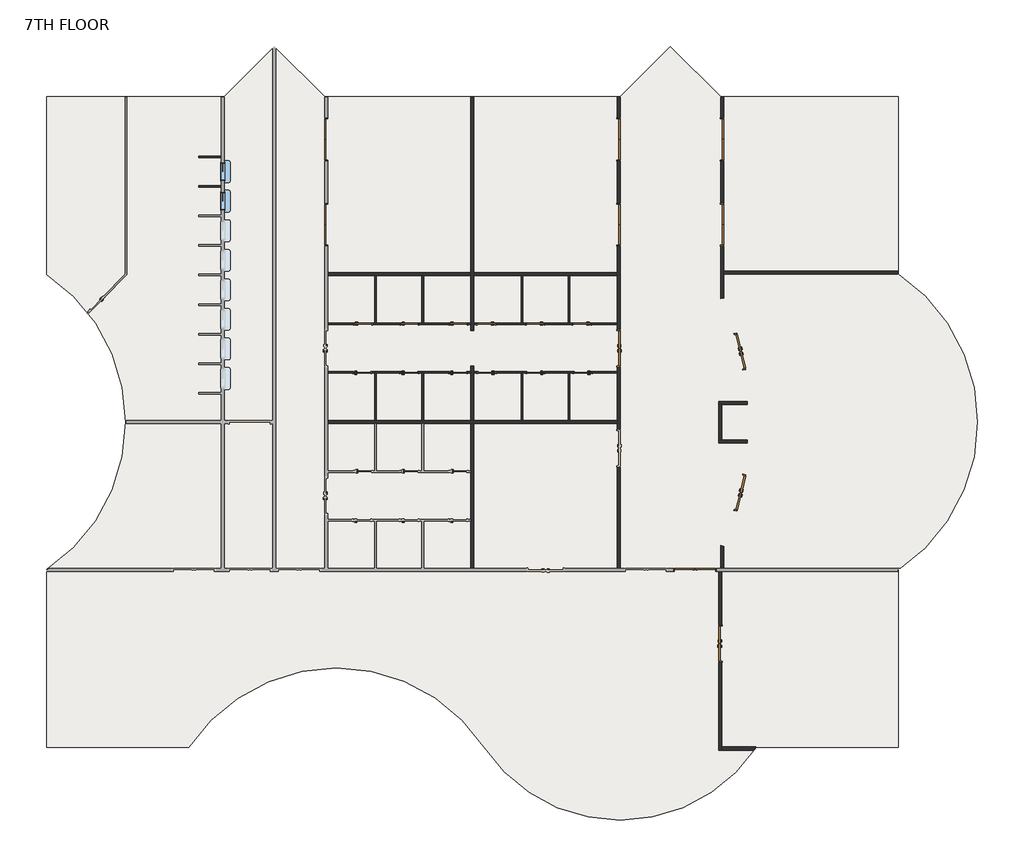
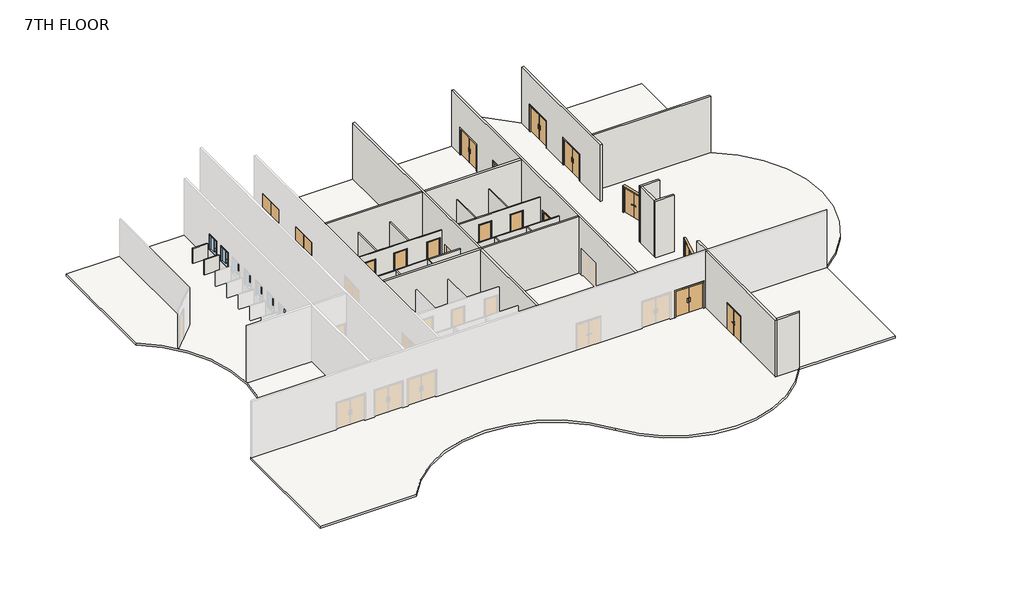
# One storey, part 2 of 2: 26 walls, 23 doors, 2 windows, 1 slab.
"""IFC4 building model written with IfcOpenShell, lengths in millimetres."""

from ifc_helpers import new_model, si_unit, point, frame, frame_2d, origin, place, context, project, spatial, polyline, circle_curve, trimmed, segment, composite_curve, outline, extrude, faceted_brep, transform, mapped, element, save
from ifc_brep_helpers import plane_surface, cylinder_surface, advanced_brep
from components import door_2f250f70, door_df8e76c5, door_0b13e4d9, door_b3a27a16, door_979b1b8c, door_f8b587be, pass_thru_4x3_19d81059

model = new_model("IFC4")

# Units and contexts
model_context = context("Model", 3, world=origin())
ifc_project = project(units=[si_unit("LENGTHUNIT", "METRE", prefix="MILLI")], contexts=[model_context])

# Site, building, storey
site = spatial("IfcSite", under=ifc_project)
building = spatial("IfcBuilding", under=site)
storey = spatial("IfcBuildingStorey", under=building, Name="7TH FLOOR", Elevation=32004.0)

# Doors
placement = place(None, origin())
door_shape = door_2f250f70(model_context)
element("IfcDoor", 1, ObjectType="Door-Passage-Double-Flush : 72\" x 82\"", at=placement, inside=storey, context=model_context, shape_type="MappedRepresentation", body=[
    mapped(door_shape, transform((35885.2621514, 20561.4429091, 32004.0), x_axis=(0.23975975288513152, -0.9708322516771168, 0.0), y_axis=(0.9708322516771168, 0.23975975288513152, 0.0), z_axis=(0.0, 0.0, 1.0))),
])
element("IfcDoor", 2, ObjectType="Door-Passage-Double-Flush : 72\" x 82\"", at=placement, inside=storey, context=model_context, shape_type="MappedRepresentation", body=[
    mapped(door_shape, transform((34887.5089577, 5494.3375, 32004.0), x_axis=(0.0, 1.0, 0.0), y_axis=(-1.0, 0.0, 0.0), z_axis=(0.0, 0.0, 1.0))),
])
door_2_shape = door_df8e76c5(model_context)
element("IfcDoor", 3, ObjectType="Door-Passage-Double-Flush : 72\" x 82\"", at=placement, inside=storey, context=model_context, shape_type="MappedRepresentation", body=[
    mapped(door_2_shape, transform((35886.7385063, 13277.3403388, 32004.0), x_axis=(0.23936619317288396, 0.9709293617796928, 0.0), y_axis=(-0.9709293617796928, 0.23936619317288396, 0.0), z_axis=(0.0, 0.0, 1.0))),
])
element("IfcDoor", 4, ObjectType="Door-Passage-Double-Flush : 72\" x 82\"", at=placement, inside=storey, context=model_context, shape_type="MappedRepresentation", body=[
    mapped(door_2_shape, transform((29628.0650257, 20729.575, 32004.0), x_axis=(0.0, 1.0, 0.0), y_axis=(-1.0, 0.0, 0.0), z_axis=(0.0, 0.0, 1.0))),
])
door_3_shape = door_0b13e4d9(model_context)
element("IfcDoor", 5, ObjectType="Door-Passage-Double-Flush-Dbl_Acting : 84\" x 84\"", at=placement, inside=storey, context=model_context, shape_type="MappedRepresentation", body=[
    mapped(door_3_shape, transform((33564.0300515, 9293.225, 32004.0), x_axis=(-1.0, 0.0, 0.0), y_axis=(0.0, -1.0, 0.0), z_axis=(0.0, 0.0, 1.0))),
])
element("IfcDoor", 6, ObjectType="Door-Passage-Double-Flush-Dbl_Acting : 84\" x 84\"", at=placement, inside=storey, context=model_context, shape_type="MappedRepresentation", body=[
    mapped(door_3_shape, transform((29628.0650257, 31499.175, 32004.0), x_axis=(0.0, 1.0, 0.0), y_axis=(-1.0, 0.0, 0.0), z_axis=(0.0, 0.0, 1.0))),
])
element("IfcDoor", 7, ObjectType="Door-Passage-Double-Flush-Dbl_Acting : 84\" x 84\"", at=placement, inside=storey, context=model_context, shape_type="MappedRepresentation", body=[
    mapped(door_3_shape, transform((29628.0650257, 27101.8, 32004.0), x_axis=(0.0, 1.0, 0.0), y_axis=(-1.0, 0.0, 0.0), z_axis=(0.0, 0.0, 1.0))),
])
door_4_shape = door_b3a27a16(model_context)
element("IfcDoor", 8, ObjectType="Door-Passage-Double-Flush-Dbl_Acting : 84\" x 84\"", at=placement, inside=storey, context=model_context, shape_type="MappedRepresentation", body=[
    mapped(door_4_shape, transform((14556.3400257, 31499.175, 32004.0), x_axis=(0.0, 1.0, 0.0), y_axis=(-1.0, 0.0, 0.0), z_axis=(0.0, 0.0, 1.0))),
])
element("IfcDoor", 9, ObjectType="Door-Passage-Double-Flush-Dbl_Acting : 84\" x 84\"", at=placement, inside=storey, context=model_context, shape_type="MappedRepresentation", body=[
    mapped(door_4_shape, transform((14556.3400257, 27101.8, 32004.0), x_axis=(0.0, 1.0, 0.0), y_axis=(-1.0, 0.0, 0.0), z_axis=(0.0, 0.0, 1.0))),
])
element("IfcDoor", 10, ObjectType="Door-Passage-Double-Flush-Dbl_Acting : 84\" x 84\"", at=placement, inside=storey, context=model_context, shape_type="MappedRepresentation", body=[
    mapped(door_4_shape, transform((34956.2675515, 31499.175, 32004.0), x_axis=(0.0, -1.0, 0.0), y_axis=(1.0, 0.0, 0.0), z_axis=(0.0, 0.0, 1.0))),
])
element("IfcDoor", 11, ObjectType="Door-Passage-Double-Flush-Dbl_Acting : 84\" x 84\"", at=placement, inside=storey, context=model_context, shape_type="MappedRepresentation", body=[
    mapped(door_4_shape, transform((34956.2675515, 27101.8, 32004.0), x_axis=(0.0, -1.0, 0.0), y_axis=(1.0, 0.0, 0.0), z_axis=(0.0, 0.0, 1.0))),
])
door_5_shape = door_979b1b8c(model_context)
element("IfcDoor", 12, ObjectType="Door-Passage-Single-Flush : 36\" x 96\"", at=placement, inside=storey, context=model_context, shape_type="MappedRepresentation", body=[
    mapped(door_5_shape, transform((16456.5775257, 21977.35, 32004.0), x_axis=(1.0, 0.0, 0.0), y_axis=(0.0, 1.0, 0.0), z_axis=(0.0, 0.0, 1.0))),
])
element("IfcDoor", 13, ObjectType="Door-Passage-Single-Flush : 36\" x 96\"", at=placement, inside=storey, context=model_context, shape_type="MappedRepresentation", body=[
    mapped(door_5_shape, transform((18855.2900257, 21977.35, 32004.0), x_axis=(1.0, 0.0, 0.0), y_axis=(0.0, 1.0, 0.0), z_axis=(0.0, 0.0, 1.0))),
])
element("IfcDoor", 14, ObjectType="Door-Passage-Single-Flush : 36\" x 96\"", at=placement, inside=storey, context=model_context, shape_type="MappedRepresentation", body=[
    mapped(door_5_shape, transform((21373.0650257, 21977.35, 32004.0), x_axis=(1.0, 0.0, 0.0), y_axis=(0.0, 1.0, 0.0), z_axis=(0.0, 0.0, 1.0))),
])
element("IfcDoor", 15, ObjectType="Door-Passage-Single-Flush : 36\" x 96\"", at=placement, inside=storey, context=model_context, shape_type="MappedRepresentation", body=[
    mapped(door_5_shape, transform((27778.6275257, 19481.8, 32004.0), x_axis=(-1.0, 0.0, 0.0), y_axis=(0.0, -1.0, 0.0), z_axis=(0.0, 0.0, 1.0))),
])
element("IfcDoor", 16, ObjectType="Door-Passage-Single-Flush : 36\" x 96\"", at=placement, inside=storey, context=model_context, shape_type="MappedRepresentation", body=[
    mapped(door_5_shape, transform((25348.1650257, 19481.8, 32004.0), x_axis=(-1.0, 0.0, 0.0), y_axis=(0.0, -1.0, 0.0), z_axis=(0.0, 0.0, 1.0))),
])
element("IfcDoor", 17, ObjectType="Door-Passage-Single-Flush : 36\" x 96\"", at=placement, inside=storey, context=model_context, shape_type="MappedRepresentation", body=[
    mapped(door_5_shape, transform((22830.3900257, 19481.8, 32004.0), x_axis=(-1.0, 0.0, 0.0), y_axis=(0.0, -1.0, 0.0), z_axis=(0.0, 0.0, 1.0))),
])
door_6_shape = door_f8b587be(model_context)
element("IfcDoor", 18, ObjectType="Door-Passage-Single-Flush : 36\" x 96\"", at=placement, inside=storey, context=model_context, shape_type="MappedRepresentation", body=[
    mapped(door_6_shape, transform((16405.7775257, 19481.8, 32004.0), x_axis=(1.0, 0.0, 0.0), y_axis=(0.0, 1.0, 0.0), z_axis=(0.0, 0.0, 1.0))),
])
element("IfcDoor", 19, ObjectType="Door-Passage-Single-Flush : 36\" x 96\"", at=placement, inside=storey, context=model_context, shape_type="MappedRepresentation", body=[
    mapped(door_6_shape, transform((18836.2400257, 19481.8, 32004.0), x_axis=(1.0, 0.0, 0.0), y_axis=(0.0, 1.0, 0.0), z_axis=(0.0, 0.0, 1.0))),
])
element("IfcDoor", 20, ObjectType="Door-Passage-Single-Flush : 36\" x 96\"", at=placement, inside=storey, context=model_context, shape_type="MappedRepresentation", body=[
    mapped(door_6_shape, transform((21354.0150257, 19481.8, 32004.0), x_axis=(1.0, 0.0, 0.0), y_axis=(0.0, 1.0, 0.0), z_axis=(0.0, 0.0, 1.0))),
])
element("IfcDoor", 21, ObjectType="Door-Passage-Single-Flush : 36\" x 96\"", at=placement, inside=storey, context=model_context, shape_type="MappedRepresentation", body=[
    mapped(door_6_shape, transform((27727.8275257, 21977.35, 32004.0), x_axis=(-1.0, 0.0, 0.0), y_axis=(0.0, -1.0, 0.0), z_axis=(0.0, 0.0, 1.0))),
])
element("IfcDoor", 22, ObjectType="Door-Passage-Single-Flush : 36\" x 96\"", at=placement, inside=storey, context=model_context, shape_type="MappedRepresentation", body=[
    mapped(door_6_shape, transform((25329.1150257, 21977.35, 32004.0), x_axis=(-1.0, 0.0, 0.0), y_axis=(0.0, -1.0, 0.0), z_axis=(0.0, 0.0, 1.0))),
])
element("IfcDoor", 23, ObjectType="Door-Passage-Single-Flush : 36\" x 96\"", at=placement, inside=storey, context=model_context, shape_type="MappedRepresentation", body=[
    mapped(door_6_shape, transform((22811.3400257, 21977.35, 32004.0), x_axis=(-1.0, 0.0, 0.0), y_axis=(0.0, -1.0, 0.0), z_axis=(0.0, 0.0, 1.0))),
])

# Slab
element("IfcSlab", 24, ObjectType="ARCHITECTURAL FINISH FLOOR", at=placement, inside=storey, context=model_context, shape_type="SweptSolid", body=[
    extrude(outline(composite_curve([segment(polyline([(9294.3144878, 33696.275), (11885.8887629, 36287.8492751), (14477.463038, 33696.275), (29706.9420135, 33696.275), (32298.5162886, 36287.8492751), (34890.0905637, 33696.275), (44041.5300515, 33696.275), (44041.5300515, 24546.3877275)]), True, "CONTINUOUS"), segment(trimmed(circle_curve(frame_2d((38974.293871, 16919.575)), 9156.7), [point((44041.5300515, 24546.3877275))], [point((44041.5300515, 9292.7622725))], False, "CARTESIAN"), True, "CONTINUOUS"), segment(polyline([(44041.5300515, 9292.7622725), (44041.5300515, 142.875), (36720.4425102, 142.875)]), True, "CONTINUOUS"), segment(trimmed(circle_curve(frame_2d((29712.2025257, 4799.7966199)), 8414.4130309), [point((36720.4425102, 142.875))], [point((22700.1916667, 148.5548109))], False, "CARTESIAN"), True, "CONTINUOUS"), segment(trimmed(circle_curve(frame_2d((15090.775, -4898.9611805)), 9131.3), [point((22700.1916667, 148.5548109))], [point((7477.593824, 142.875))], True, "CARTESIAN"), True, "CONTINUOUS"), segment(polyline([(7477.593824, 142.875), (142.875, 142.875), (142.875, 9306.393824)]), True, "CONTINUOUS"), segment(trimmed(circle_curve(frame_2d((-4898.9611805, 16919.575)), 9131.3), [point((142.875, 9306.393824))], [point((142.875, 24532.756176))], True, "CARTESIAN"), True, "CONTINUOUS"), segment(polyline([(142.875, 24532.756176), (142.875, 33696.275), (9294.3144878, 33696.275)]), True, "CONTINUOUS")], self_intersect=False)), frame((0.0, 0.0, 31851.6), z_axis=(0.0, 0.0, 1.0), x_axis=(1.0, 0.0, 0.0)), (0.0, 0.0, 1.0), 171.45),
])

# Walls
element("IfcWall", 25, ObjectType="SYR_INT_ONE_HOUR", at=placement, inside=storey, context=model_context, shape_type="SweptSolid", body=[
    extrude(outline(polyline([(17066.1775257, 22023.3875), (17066.1775257, 24461.7875), (17145.5525257, 24461.7875), (17145.5525257, 22023.3875), (17066.1775257, 22023.3875)])), frame((0.0, 0.0, 32004.0), z_axis=(0.0, 0.0, 1.0), x_axis=(1.0, 0.0, 0.0)), (0.0, 0.0, 1.0), 3048.0),
])
element("IfcWall", 26, ObjectType="SYR_INT_ONE_HOUR", at=placement, inside=storey, context=model_context, shape_type="SweptSolid", body=[
    extrude(outline(polyline([(19576.0150257, 19435.7625), (19576.0150257, 16997.3625), (19496.6400257, 16997.3625), (19496.6400257, 19435.7625), (19576.0150257, 19435.7625)])), frame((0.0, 0.0, 32004.0), z_axis=(0.0, 0.0, 1.0), x_axis=(1.0, 0.0, 0.0)), (0.0, 0.0, 1.0), 3048.0),
])
element("IfcWall", 27, ObjectType="SYR_INT_ONE_HOUR", at=placement, inside=storey, context=model_context, shape_type="Brep", body=[
    faceted_brep([(14627.7775257, 22023.3875, 35052.0), (17066.1775257, 22023.3875, 35052.0), (17145.5525257, 22023.3875, 35052.0), (19496.6400257, 22023.3875, 35052.0), (19576.0150257, 22023.3875, 35052.0), (22014.4150257, 22023.3875, 35052.0), (22014.4150257, 22023.3875, 32004.0), (21862.0150257, 22023.3875, 32004.0), (21862.0150257, 22023.3875, 34474.15), (20884.1150257, 22023.3875, 34474.15), (20884.1150257, 22023.3875, 32004.0), (19576.0150257, 22023.3875, 32004.0), (19496.6400257, 22023.3875, 32004.0), (19344.2400257, 22023.3875, 32004.0), (19344.2400257, 22023.3875, 34474.15), (18366.3400257, 22023.3875, 34474.15), (18366.3400257, 22023.3875, 32004.0), (17145.5525257, 22023.3875, 32004.0), (17066.1775257, 22023.3875, 32004.0), (16945.5275257, 22023.3875, 32004.0), (16945.5275257, 22023.3875, 34474.15), (15967.6275257, 22023.3875, 34474.15), (15967.6275257, 22023.3875, 32004.0), (14627.7775257, 22023.3875, 32004.0), (22014.4150257, 21944.0125, 35052.0), (14627.7775257, 21944.0125, 35052.0), (14627.7775257, 21944.0125, 32004.0), (15967.6275257, 21944.0125, 32004.0), (15967.6275257, 21944.0125, 34474.15), (16945.5275257, 21944.0125, 34474.15), (16945.5275257, 21944.0125, 32004.0), (18366.3400257, 21944.0125, 32004.0), (18366.3400257, 21944.0125, 34474.15), (19344.2400257, 21944.0125, 34474.15), (19344.2400257, 21944.0125, 32004.0), (20884.1150257, 21944.0125, 32004.0), (20884.1150257, 21944.0125, 34474.15), (21862.0150257, 21944.0125, 34474.15), (21862.0150257, 21944.0125, 32004.0), (22014.4150257, 21944.0125, 32004.0)], [[[0, 1, 2, 3, 4, 5, 6, 7, 8, 9, 10, 11, 12, 13, 14, 15, 16, 17, 18, 19, 20, 21, 22, 23]], [[24, 25, 26, 27, 28, 29, 30, 31, 32, 33, 34, 35, 36, 37, 38, 39]], [[23, 22, 27, 26]], [[30, 19, 18, 17, 16, 31]], [[34, 13, 12, 11, 10, 35]], [[6, 39, 38, 7]], [[5, 4, 3, 2, 1, 0, 25, 24]], [[29, 20, 19, 30]], [[20, 29, 28, 21]], [[21, 28, 27, 22]], [[14, 13, 34, 33]], [[15, 14, 33, 32]], [[16, 15, 32, 31]], [[37, 8, 7, 38]], [[8, 37, 36, 9]], [[9, 36, 35, 10]], [[0, 23, 26, 25]], [[6, 5, 24, 39]]]),
])
element("IfcWall", 28, ObjectType="SYR_INT_ONE_HOUR", at=placement, inside=storey, context=model_context, shape_type="Brep", body=[
    faceted_brep([(14627.7775257, 19515.1375, 35052.0), (22014.4150257, 19515.1375, 35052.0), (22014.4150257, 19515.1375, 32004.0), (21842.9650257, 19515.1375, 32004.0), (21842.9650257, 19515.1375, 34474.15), (20865.0650257, 19515.1375, 34474.15), (20865.0650257, 19515.1375, 32004.0), (19325.1900257, 19515.1375, 32004.0), (19325.1900257, 19515.1375, 34474.15), (18347.2900257, 19515.1375, 34474.15), (18347.2900257, 19515.1375, 32004.0), (16894.7275257, 19515.1375, 32004.0), (16894.7275257, 19515.1375, 34474.15), (15916.8275257, 19515.1375, 34474.15), (15916.8275257, 19515.1375, 32004.0), (14627.7775257, 19515.1375, 32004.0), (22014.4150257, 19435.7625, 35052.0), (19576.0150257, 19435.7625, 35052.0), (19496.6400257, 19435.7625, 35052.0), (17145.5525257, 19435.7625, 35052.0), (17066.1775257, 19435.7625, 35052.0), (14627.7775257, 19435.7625, 35052.0), (14627.7775257, 19435.7625, 32004.0), (15916.8275257, 19435.7625, 32004.0), (15916.8275257, 19435.7625, 34474.15), (16894.7275257, 19435.7625, 34474.15), (16894.7275257, 19435.7625, 32004.0), (17066.1775257, 19435.7625, 32004.0), (17145.5525257, 19435.7625, 32004.0), (18347.2900257, 19435.7625, 32004.0), (18347.2900257, 19435.7625, 34474.15), (19325.1900257, 19435.7625, 34474.15), (19325.1900257, 19435.7625, 32004.0), (19496.6400257, 19435.7625, 32004.0), (19576.0150257, 19435.7625, 32004.0), (20865.0650257, 19435.7625, 32004.0), (20865.0650257, 19435.7625, 34474.15), (21842.9650257, 19435.7625, 34474.15), (21842.9650257, 19435.7625, 32004.0), (22014.4150257, 19435.7625, 32004.0)], [[[0, 1, 2, 3, 4, 5, 6, 7, 8, 9, 10, 11, 12, 13, 14, 15]], [[16, 17, 18, 19, 20, 21, 22, 23, 24, 25, 26, 27, 28, 29, 30, 31, 32, 33, 34, 35, 36, 37, 38, 39]], [[15, 14, 23, 22]], [[26, 11, 10, 29, 28, 27]], [[32, 7, 6, 35, 34, 33]], [[2, 39, 38, 3]], [[1, 0, 21, 20, 19, 18, 17, 16]], [[25, 12, 11, 26]], [[12, 25, 24, 13]], [[13, 24, 23, 14]], [[31, 8, 7, 32]], [[8, 31, 30, 9]], [[9, 30, 29, 10]], [[37, 4, 3, 38]], [[4, 37, 36, 5]], [[5, 36, 35, 6]], [[0, 15, 22, 21]], [[2, 1, 16, 39]]]),
])
element("IfcWall", 29, ObjectType="SYR_INT_ONE_HOUR", at=placement, inside=storey, context=model_context, shape_type="SweptSolid", body=[
    extrude(outline(polyline([(17066.1775257, 16997.3625), (17066.1775257, 19435.7625), (17145.5525257, 19435.7625), (17145.5525257, 16997.3625), (17066.1775257, 16997.3625)])), frame((0.0, 0.0, 32004.0), z_axis=(0.0, 0.0, 1.0), x_axis=(1.0, 0.0, 0.0)), (0.0, 0.0, 1.0), 3048.0),
])
element("IfcWall", 30, ObjectType="SYR_INT_ONE_HOUR", at=placement, inside=storey, context=model_context, shape_type="SweptSolid", body=[
    extrude(outline(polyline([(19576.0150257, 24461.7875), (19576.0150257, 22023.3875), (19496.6400257, 22023.3875), (19496.6400257, 24461.7875), (19576.0150257, 24461.7875)])), frame((0.0, 0.0, 32004.0), z_axis=(0.0, 0.0, 1.0), x_axis=(1.0, 0.0, 0.0)), (0.0, 0.0, 1.0), 3048.0),
])
element("IfcWall", 31, ObjectType="SYR_INT_ONE_HOUR", at=placement, inside=storey, context=model_context, shape_type="SweptSolid", body=[
    extrude(outline(polyline([(7979.2710938, 29111.575), (9144.0, 29111.575), (9144.0, 29032.2), (7979.2710938, 29032.2), (7979.2710938, 29111.575)])), frame((0.0, 0.0, 32004.0), z_axis=(0.0, 0.0, 1.0), x_axis=(1.0, 0.0, 0.0)), (0.0, 0.0, 1.0), 1219.2),
])
element("IfcWall", 32, ObjectType="SYR_INT_ONE_HOUR", at=placement, inside=storey, context=model_context, shape_type="SweptSolid", body=[
    extrude(outline(polyline([(7979.2710938, 30635.575), (9144.0, 30635.575), (9144.0, 30556.2), (7979.2710938, 30556.2), (7979.2710938, 30635.575)])), frame((0.0, 0.0, 32004.0), z_axis=(0.0, 0.0, 1.0), x_axis=(1.0, 0.0, 0.0)), (0.0, 0.0, 1.0), 1219.2),
])
element("IfcWall", 33, ObjectType="SYR_INT_ONE_HOUR", at=placement, inside=storey, context=model_context, shape_type="SweptSolid", body=[
    extrude(outline(polyline([(27038.8525257, 22023.3875), (27038.8525257, 24461.7875), (27118.2275257, 24461.7875), (27118.2275257, 22023.3875), (27038.8525257, 22023.3875)])), frame((0.0, 0.0, 32004.0), z_axis=(0.0, 0.0, 1.0), x_axis=(1.0, 0.0, 0.0)), (0.0, 0.0, 1.0), 3048.0),
])
element("IfcWall", 34, ObjectType="SYR_INT_ONE_HOUR", at=placement, inside=storey, context=model_context, shape_type="SweptSolid", body=[
    extrude(outline(polyline([(24687.7650257, 19435.7625), (24687.7650257, 16997.3625), (24608.3900257, 16997.3625), (24608.3900257, 19435.7625), (24687.7650257, 19435.7625)])), frame((0.0, 0.0, 32004.0), z_axis=(0.0, 0.0, 1.0), x_axis=(1.0, 0.0, 0.0)), (0.0, 0.0, 1.0), 3048.0),
])
element("IfcWall", 35, ObjectType="SYR_INT_ONE_HOUR", at=placement, inside=storey, context=model_context, shape_type="Brep", body=[
    faceted_brep([(29556.6275257, 21944.0125, 35052.0), (22169.9900257, 21944.0125, 35052.0), (22169.9900257, 21944.0125, 32004.0), (22322.3900257, 21944.0125, 32004.0), (22322.3900257, 21944.0125, 34474.15), (23300.2900257, 21944.0125, 34474.15), (23300.2900257, 21944.0125, 32004.0), (24840.1650257, 21944.0125, 32004.0), (24840.1650257, 21944.0125, 34474.15), (25818.0650257, 21944.0125, 34474.15), (25818.0650257, 21944.0125, 32004.0), (27238.8775257, 21944.0125, 32004.0), (27238.8775257, 21944.0125, 34474.15), (28216.7775257, 21944.0125, 34474.15), (28216.7775257, 21944.0125, 32004.0), (29556.6275257, 21944.0125, 32004.0), (22169.9900257, 22023.3875, 35052.0), (24608.3900257, 22023.3875, 35052.0), (24687.7650257, 22023.3875, 35052.0), (27038.8525257, 22023.3875, 35052.0), (27118.2275257, 22023.3875, 35052.0), (29556.6275257, 22023.3875, 35052.0), (29556.6275257, 22023.3875, 32004.0), (28216.7775257, 22023.3875, 32004.0), (28216.7775257, 22023.3875, 34474.15), (27238.8775257, 22023.3875, 34474.15), (27238.8775257, 22023.3875, 32004.0), (27118.2275257, 22023.3875, 32004.0), (27038.8525257, 22023.3875, 32004.0), (25818.0650257, 22023.3875, 32004.0), (25818.0650257, 22023.3875, 34474.15), (24840.1650257, 22023.3875, 34474.15), (24840.1650257, 22023.3875, 32004.0), (24687.7650257, 22023.3875, 32004.0), (24608.3900257, 22023.3875, 32004.0), (23300.2900257, 22023.3875, 32004.0), (23300.2900257, 22023.3875, 34474.15), (22322.3900257, 22023.3875, 34474.15), (22322.3900257, 22023.3875, 32004.0), (22169.9900257, 22023.3875, 32004.0)], [[[0, 1, 2, 3, 4, 5, 6, 7, 8, 9, 10, 11, 12, 13, 14, 15]], [[16, 17, 18, 19, 20, 21, 22, 23, 24, 25, 26, 27, 28, 29, 30, 31, 32, 33, 34, 35, 36, 37, 38, 39]], [[15, 14, 23, 22]], [[26, 11, 10, 29, 28, 27]], [[32, 7, 6, 35, 34, 33]], [[2, 39, 38, 3]], [[1, 0, 21, 20, 19, 18, 17, 16]], [[25, 12, 11, 26]], [[12, 25, 24, 13]], [[13, 24, 23, 14]], [[8, 7, 32, 31]], [[9, 8, 31, 30]], [[10, 9, 30, 29]], [[37, 4, 3, 38]], [[4, 37, 36, 5]], [[5, 36, 35, 6]], [[0, 15, 22, 21]], [[2, 1, 16, 39]]]),
])
element("IfcWall", 36, ObjectType="SYR_INT_ONE_HOUR", at=placement, inside=storey, context=model_context, shape_type="Brep", body=[
    faceted_brep([(29556.6275257, 19435.7625, 35052.0), (27118.2275257, 19435.7625, 35052.0), (27038.8525257, 19435.7625, 35052.0), (24687.7650257, 19435.7625, 35052.0), (24608.3900257, 19435.7625, 35052.0), (22169.9900257, 19435.7625, 35052.0), (22169.9900257, 19435.7625, 32004.0), (22341.4400257, 19435.7625, 32004.0), (22341.4400257, 19435.7625, 34474.15), (23319.3400257, 19435.7625, 34474.15), (23319.3400257, 19435.7625, 32004.0), (24608.3900257, 19435.7625, 32004.0), (24687.7650257, 19435.7625, 32004.0), (24859.2150257, 19435.7625, 32004.0), (24859.2150257, 19435.7625, 34474.15), (25837.1150257, 19435.7625, 34474.15), (25837.1150257, 19435.7625, 32004.0), (27038.8525257, 19435.7625, 32004.0), (27118.2275257, 19435.7625, 32004.0), (27289.6775257, 19435.7625, 32004.0), (27289.6775257, 19435.7625, 34474.15), (28267.5775257, 19435.7625, 34474.15), (28267.5775257, 19435.7625, 32004.0), (29556.6275257, 19435.7625, 32004.0), (22169.9900257, 19515.1375, 35052.0), (29556.6275257, 19515.1375, 35052.0), (29556.6275257, 19515.1375, 32004.0), (28267.5775257, 19515.1375, 32004.0), (28267.5775257, 19515.1375, 34474.15), (27289.6775257, 19515.1375, 34474.15), (27289.6775257, 19515.1375, 32004.0), (25837.1150257, 19515.1375, 32004.0), (25837.1150257, 19515.1375, 34474.15), (24859.2150257, 19515.1375, 34474.15), (24859.2150257, 19515.1375, 32004.0), (23319.3400257, 19515.1375, 32004.0), (23319.3400257, 19515.1375, 34474.15), (22341.4400257, 19515.1375, 34474.15), (22341.4400257, 19515.1375, 32004.0), (22169.9900257, 19515.1375, 32004.0)], [[[0, 1, 2, 3, 4, 5, 6, 7, 8, 9, 10, 11, 12, 13, 14, 15, 16, 17, 18, 19, 20, 21, 22, 23]], [[24, 25, 26, 27, 28, 29, 30, 31, 32, 33, 34, 35, 36, 37, 38, 39]], [[23, 22, 27, 26]], [[30, 19, 18, 17, 16, 31]], [[34, 13, 12, 11, 10, 35]], [[6, 39, 38, 7]], [[5, 4, 3, 2, 1, 0, 25, 24]], [[29, 20, 19, 30]], [[20, 29, 28, 21]], [[21, 28, 27, 22]], [[33, 14, 13, 34]], [[14, 33, 32, 15]], [[15, 32, 31, 16]], [[37, 8, 7, 38]], [[8, 37, 36, 9]], [[9, 36, 35, 10]], [[0, 23, 26, 25]], [[6, 5, 24, 39]]]),
])
element("IfcWall", 37, ObjectType="SYR_INT_ONE_HOUR", at=placement, inside=storey, context=model_context, shape_type="SweptSolid", body=[
    extrude(outline(polyline([(27038.8525257, 16997.3625), (27038.8525257, 19435.7625), (27118.2275257, 19435.7625), (27118.2275257, 16997.3625), (27038.8525257, 16997.3625)])), frame((0.0, 0.0, 32004.0), z_axis=(0.0, 0.0, 1.0), x_axis=(1.0, 0.0, 0.0)), (0.0, 0.0, 1.0), 3048.0),
])
element("IfcWall", 38, ObjectType="SYR_INT_ONE_HOUR", at=placement, inside=storey, context=model_context, shape_type="SweptSolid", body=[
    extrude(outline(polyline([(24687.7650257, 24461.7875), (24687.7650257, 22023.3875), (24608.3900257, 22023.3875), (24608.3900257, 24461.7875), (24687.7650257, 24461.7875)])), frame((0.0, 0.0, 32004.0), z_axis=(0.0, 0.0, 1.0), x_axis=(1.0, 0.0, 0.0)), (0.0, 0.0, 1.0), 3048.0),
])
element("IfcWall", 39, ObjectType="SYR_INT_TWO_HOUR", at=placement, inside=storey, context=model_context, shape_type="Brep", body=[
    faceted_brep([(34803.3714577, 0.0, 36576.0), (34803.3714577, 9221.7875, 36576.0), (34803.3714577, 9221.7875, 32004.0), (34803.3714577, 6459.5375, 32004.0), (34803.3714577, 6459.5375, 34188.4), (34803.3714577, 4529.1375, 34188.4), (34803.3714577, 4529.1375, 32004.0), (34803.3714577, 0.0, 32004.0), (34958.9464577, 9221.7875, 36576.0), (34958.9464577, 155.575, 36576.0), (34958.9464577, 0.0, 36576.0), (34958.9464577, 0.0, 32004.0), (34958.9464577, 155.575, 32004.0), (34958.9464577, 4529.1375, 32004.0), (34958.9464577, 4529.1375, 34188.4), (34958.9464577, 6459.5375, 34188.4), (34958.9464577, 6459.5375, 32004.0), (34958.9464577, 9221.7875, 32004.0)], [[[0, 1, 2, 3, 4, 5, 6, 7]], [[8, 9, 10, 11, 12, 13, 14, 15, 16, 17]], [[2, 17, 16, 3]], [[11, 7, 6, 13, 12]], [[1, 0, 10, 9, 8]], [[2, 1, 8, 17]], [[0, 7, 11, 10]], [[15, 4, 3, 16]], [[4, 15, 14, 5]], [[5, 14, 13, 6]]]),
])
element("IfcWall", 40, ObjectType="SYR_INT_TWO_HOUR", at=placement, inside=storey, context=model_context, shape_type="SweptSolid", body=[
    extrude(outline(composite_curve([segment(polyline([(36607.9065696, 0.0), (34958.9464577, 0.0), (34958.9464577, 155.575), (36713.6300515, 155.575)]), True, "CONTINUOUS"), segment(trimmed(circle_curve(frame_2d((29712.2025257, 4799.7966199)), 8401.7130309), [point((36713.6300515, 155.575))], [point((36607.9065696, 0.0))], False, "CARTESIAN"), True, "CONTINUOUS")], self_intersect=False)), frame((0.0, 0.0, 32004.0), z_axis=(0.0, 0.0, 1.0), x_axis=(1.0, 0.0, 0.0)), (0.0, 0.0, 1.0), 4572.0),
])
element("IfcWall", 41, ObjectType="SYR_INT_TWO_HOUR", at=placement, inside=storey, context=model_context, shape_type="Brep", body=[
    faceted_brep([(29556.6275257, 9377.3625, 36576.0), (29556.6275257, 16841.7875, 36576.0), (29556.6275257, 16997.3625, 36576.0), (29556.6275257, 24461.7875, 36576.0), (29556.6275257, 24617.3625, 36576.0), (29556.6275257, 33683.575, 36576.0), (29556.6275257, 33683.575, 32004.0), (29556.6275257, 32616.775, 32004.0), (29556.6275257, 32616.775, 34239.2), (29556.6275257, 30381.575, 34239.2), (29556.6275257, 30381.575, 32004.0), (29556.6275257, 28219.4, 32004.0), (29556.6275257, 28219.4, 34239.2), (29556.6275257, 25984.2, 34239.2), (29556.6275257, 25984.2, 32004.0), (29556.6275257, 24617.3625, 32004.0), (29556.6275257, 24461.7875, 32004.0), (29556.6275257, 22023.3875, 32004.0), (29556.6275257, 21944.0125, 32004.0), (29556.6275257, 21694.775, 32004.0), (29556.6275257, 21694.775, 34188.4), (29556.6275257, 19764.375, 34188.4), (29556.6275257, 19764.375, 32004.0), (29556.6275257, 19515.1375, 32004.0), (29556.6275257, 19435.7625, 32004.0), (29556.6275257, 16997.3625, 32004.0), (29556.6275257, 16841.7875, 32004.0), (29556.6275257, 16536.9875, 32004.0), (29556.6275257, 16536.9875, 34188.4), (29556.6275257, 14606.5875, 34188.4), (29556.6275257, 14606.5875, 32004.0), (29556.6275257, 9377.3625, 32004.0), (29712.2025257, 33683.575, 36576.0), (29712.2025257, 9377.3625, 36576.0), (29712.2025257, 9377.3625, 32004.0), (29712.2025257, 14606.5875, 32004.0), (29712.2025257, 14606.5875, 34188.4), (29712.2025257, 16536.9875, 34188.4), (29712.2025257, 16536.9875, 32004.0), (29712.2025257, 19764.375, 32004.0), (29712.2025257, 19764.375, 34188.4), (29712.2025257, 21694.775, 34188.4), (29712.2025257, 21694.775, 32004.0), (29712.2025257, 25984.2, 32004.0), (29712.2025257, 25984.2, 34239.2), (29712.2025257, 28219.4, 34239.2), (29712.2025257, 28219.4, 32004.0), (29712.2025257, 30381.575, 32004.0), (29712.2025257, 30381.575, 34239.2), (29712.2025257, 32616.775, 34239.2), (29712.2025257, 32616.775, 32004.0), (29712.2025257, 33683.575, 32004.0)], [[[0, 1, 2, 3, 4, 5, 6, 7, 8, 9, 10, 11, 12, 13, 14, 15, 16, 17, 18, 19, 20, 21, 22, 23, 24, 25, 26, 27, 28, 29, 30, 31]], [[32, 33, 34, 35, 36, 37, 38, 39, 40, 41, 42, 43, 44, 45, 46, 47, 48, 49, 50, 51]], [[34, 31, 30, 35]], [[42, 19, 18, 17, 16, 15, 14, 43]], [[22, 39, 38, 27, 26, 25, 24, 23]], [[46, 11, 10, 47]], [[7, 6, 51, 50]], [[5, 4, 3, 2, 1, 0, 33, 32]], [[0, 31, 34, 33]], [[41, 20, 19, 42]], [[20, 41, 40, 21]], [[21, 40, 39, 22]], [[45, 12, 11, 46]], [[12, 45, 44, 13]], [[13, 44, 43, 14]], [[49, 8, 7, 50]], [[8, 49, 48, 9]], [[9, 48, 47, 10]], [[29, 36, 35, 30]], [[36, 29, 28, 37]], [[37, 28, 27, 38]], [[6, 5, 32, 51]]]),
])
element("IfcWall", 42, ObjectType="SYR_INT_TWO_HOUR", at=placement, inside=storey, context=model_context, shape_type="Brep", body=[
    faceted_brep([(34884.8300515, 23286.7810764, 36576.0), (34884.8300515, 33683.575, 36576.0), (34884.8300515, 33683.575, 32004.0), (34884.8300515, 32616.775, 32004.0), (34884.8300515, 32616.775, 34239.2), (34884.8300515, 30381.575, 34239.2), (34884.8300515, 30381.575, 32004.0), (34884.8300515, 28219.4, 32004.0), (34884.8300515, 28219.4, 34239.2), (34884.8300515, 25984.2, 34239.2), (34884.8300515, 25984.2, 32004.0), (34884.8300515, 23286.7810764, 32004.0), (35040.4050515, 33683.575, 36576.0), (35040.4050515, 24695.15, 36576.0), (35040.4050515, 24539.575, 36576.0), (35040.4050515, 23320.9573614, 36576.0), (35040.4050515, 23320.9573614, 32004.0), (35040.4050515, 24539.575, 32004.0), (35040.4050515, 24695.15, 32004.0), (35040.4050515, 25984.2, 32004.0), (35040.4050515, 25984.2, 34239.2), (35040.4050515, 28219.4, 34239.2), (35040.4050515, 28219.4, 32004.0), (35040.4050515, 30381.575, 32004.0), (35040.4050515, 30381.575, 34239.2), (35040.4050515, 32616.775, 34239.2), (35040.4050515, 32616.775, 32004.0), (35040.4050515, 33683.575, 32004.0)], [[[0, 1, 2, 3, 4, 5, 6, 7, 8, 9, 10, 11]], [[12, 13, 14, 15, 16, 17, 18, 19, 20, 21, 22, 23, 24, 25, 26, 27]], [[16, 11, 10, 19, 18, 17]], [[3, 2, 27, 26]], [[6, 23, 22, 7]], [[1, 0, 15, 14, 13, 12]], [[0, 11, 16, 15]], [[5, 24, 23, 6]], [[24, 5, 4, 25]], [[25, 4, 3, 26]], [[9, 20, 19, 10]], [[20, 9, 8, 21]], [[21, 8, 7, 22]], [[2, 1, 12, 27]]]),
])
element("IfcWall", 43, ObjectType="SYR_INT_TWO_HOUR", at=placement, inside=storey, context=model_context, shape_type="Brep", body=[
    faceted_brep([(14627.7775257, 16841.7875, 32004.0), (17066.1775257, 16841.7875, 32004.0), (17145.5525257, 16841.7875, 32004.0), (19496.6400257, 16841.7875, 32004.0), (19576.0150257, 16841.7875, 32004.0), (22014.4150257, 16841.7875, 32004.0), (22169.9900257, 16841.7875, 32004.0), (29556.6275257, 16841.7875, 32004.0), (29556.6275257, 16841.7875, 36576.0), (22169.9900257, 16841.7875, 36576.0), (22014.4150257, 16841.7875, 36576.0), (14627.7775257, 16841.7875, 36576.0), (14627.7775257, 16997.3625, 32004.0), (14627.7775257, 16997.3625, 36576.0), (22014.4150257, 16997.3625, 36576.0), (22169.9900257, 16997.3625, 36576.0), (29556.6275257, 16997.3625, 36576.0), (29556.6275257, 16997.3625, 32004.0), (27118.2275257, 16997.3625, 32004.0), (27038.8525257, 16997.3625, 32004.0), (24687.7650257, 16997.3625, 32004.0), (24608.3900257, 16997.3625, 32004.0), (22169.9900257, 16997.3625, 32004.0), (22014.4150257, 16997.3625, 32004.0), (19576.0150257, 16997.3625, 32004.0), (19496.6400257, 16997.3625, 32004.0), (17145.5525257, 16997.3625, 32004.0), (17066.1775257, 16997.3625, 32004.0)], [[[0, 1, 2, 3, 4, 5, 6, 7, 8, 9, 10, 11]], [[12, 13, 14, 15, 16, 17, 18, 19, 20, 21, 22, 23, 24, 25, 26, 27]], [[7, 6, 5, 4, 3, 2, 1, 0, 12, 27, 26, 25, 24, 23, 22, 21, 20, 19, 18, 17]], [[11, 10, 9, 8, 16, 15, 14, 13]], [[0, 11, 13, 12]], [[8, 7, 17, 16]]]),
])
element("IfcWall", 44, ObjectType="SYR_INT_TWO_HOUR", at=placement, inside=storey, context=model_context, shape_type="Brep", body=[
    faceted_brep([(22169.9900257, 9377.3625, 36576.0), (22169.9900257, 9377.3625, 32004.0), (22169.9900257, 16841.7875, 32004.0), (22169.9900257, 16841.7875, 36576.0), (22014.4150257, 9377.3625, 32004.0), (22014.4150257, 9377.3625, 36576.0), (22014.4150257, 16841.7875, 36576.0), (22014.4150257, 16841.7875, 32004.0), (22014.4150257, 14403.3875, 32004.0), (22014.4150257, 14324.0125, 32004.0), (22014.4150257, 11895.1375, 32004.0), (22014.4150257, 11815.7625, 32004.0)], [[[0, 1, 2, 3]], [[4, 5, 6, 7, 8, 9, 10, 11]], [[1, 4, 11, 10, 9, 8, 7, 2]], [[5, 0, 3, 6]], [[1, 0, 5, 4]], [[3, 2, 7, 6]]]),
    faceted_brep([(22169.9900257, 19815.175, 32004.0), (22169.9900257, 19815.175, 34137.6), (22169.9900257, 21643.975, 34137.6), (22169.9900257, 21643.975, 32004.0), (22169.9900257, 21944.0125, 32004.0), (22169.9900257, 22023.3875, 32004.0), (22169.9900257, 24461.7875, 32004.0), (22169.9900257, 24617.3625, 32004.0), (22169.9900257, 33683.575, 32004.0), (22169.9900257, 33683.575, 36576.0), (22169.9900257, 24617.3625, 36576.0), (22169.9900257, 24461.7875, 36576.0), (22169.9900257, 16997.3625, 36576.0), (22169.9900257, 16997.3625, 32004.0), (22169.9900257, 19435.7625, 32004.0), (22169.9900257, 19515.1375, 32004.0), (22014.4150257, 19815.175, 34137.6), (22014.4150257, 19815.175, 32004.0), (22014.4150257, 19515.1375, 32004.0), (22014.4150257, 19435.7625, 32004.0), (22014.4150257, 16997.3625, 32004.0), (22014.4150257, 16997.3625, 36576.0), (22014.4150257, 24461.7875, 36576.0), (22014.4150257, 24617.3625, 36576.0), (22014.4150257, 33683.575, 36576.0), (22014.4150257, 33683.575, 32004.0), (22014.4150257, 24617.3625, 32004.0), (22014.4150257, 24461.7875, 32004.0), (22014.4150257, 22023.3875, 32004.0), (22014.4150257, 21944.0125, 32004.0), (22014.4150257, 21643.975, 32004.0), (22014.4150257, 21643.975, 34137.6)], [[[0, 1, 2, 3, 4, 5, 6, 7, 8, 9, 10, 11, 12, 13, 14, 15]], [[16, 17, 18, 19, 20, 21, 22, 23, 24, 25, 26, 27, 28, 29, 30, 31]], [[17, 0, 15, 14, 13, 20, 19, 18]], [[3, 30, 29, 28, 27, 26, 25, 8, 7, 6, 5, 4]], [[9, 24, 23, 22, 21, 12, 11, 10]], [[13, 12, 21, 20]], [[17, 16, 1, 0]], [[31, 30, 3, 2]], [[16, 31, 2, 1]], [[9, 8, 25, 24]]]),
])
element("IfcWall", 45, ObjectType="SYR_INT_TWO_HOUR", at=placement, inside=storey, context=model_context, shape_type="Brep", body=[
    faceted_brep([(14627.7775257, 24461.7875, 36576.0), (14627.7775257, 24461.7875, 32004.0), (17066.1775257, 24461.7875, 32004.0), (17145.5525257, 24461.7875, 32004.0), (19496.6400257, 24461.7875, 32004.0), (19576.0150257, 24461.7875, 32004.0), (22014.4150257, 24461.7875, 32004.0), (22014.4150257, 24461.7875, 36576.0), (14627.7775257, 24617.3625, 32004.0), (14627.7775257, 24617.3625, 36576.0), (22014.4150257, 24617.3625, 36576.0), (22014.4150257, 24617.3625, 32004.0)], [[[0, 1, 2, 3, 4, 5, 6, 7]], [[8, 9, 10, 11]], [[1, 8, 11, 6, 5, 4, 3, 2]], [[9, 0, 7, 10]], [[1, 0, 9, 8]], [[7, 6, 11, 10]]]),
    faceted_brep([(29556.6275257, 24461.7875, 32004.0), (29556.6275257, 24461.7875, 36576.0), (22169.9900257, 24461.7875, 36576.0), (22169.9900257, 24461.7875, 32004.0), (24608.3900257, 24461.7875, 32004.0), (24687.7650257, 24461.7875, 32004.0), (27038.8525257, 24461.7875, 32004.0), (27118.2275257, 24461.7875, 32004.0), (29556.6275257, 24617.3625, 36576.0), (29556.6275257, 24617.3625, 32004.0), (22169.9900257, 24617.3625, 32004.0), (22169.9900257, 24617.3625, 36576.0)], [[[0, 1, 2, 3, 4, 5, 6, 7]], [[8, 9, 10, 11]], [[9, 0, 7, 6, 5, 4, 3, 10]], [[1, 8, 11, 2]], [[1, 0, 9, 8]], [[3, 2, 11, 10]]]),
])
element("IfcWall", 46, ObjectType="SYR_INT_TWO_HOUR", at=placement, inside=storey, context=model_context, shape_type="SweptSolid", body=[
    extrude(outline(polyline([(35040.4050515, 24695.15), (44028.8300515, 24695.15), (44028.8300515, 24539.575), (35040.4050515, 24539.575), (35040.4050515, 24695.15)])), frame((0.0, 0.0, 32004.0), z_axis=(0.0, 0.0, 1.0), x_axis=(1.0, 0.0, 0.0)), (0.0, 0.0, 1.0), 4572.0),
])
element("IfcWall", 47, ObjectType="SYR_INT_TWO_HOUR", at=placement, inside=storey, context=model_context, shape_type="SweptSolid", body=[
    extrude(outline(polyline([(34884.8300515, 9377.3625), (34884.8300515, 10546.0189236), (35040.4050515, 10511.8426386), (35040.4050515, 9377.3625), (34884.8300515, 9377.3625)])), frame((0.0, 0.0, 32004.0), z_axis=(0.0, 0.0, 1.0), x_axis=(1.0, 0.0, 0.0)), (0.0, 0.0, 1.0), 4572.0),
])
element("IfcWall", 48, ObjectType="SYR_INT_TWO_HOUR", at=placement, inside=storey, context=model_context, shape_type="AdvancedBrep", body=[
    advanced_brep(
    [(36260.4137436, 16002.0, 32004.0), (34939.3011452, 16002.0, 32004.0), (34783.7261452, 16002.0, 32004.0), (34783.7261452, 16002.0, 36576.0), (34939.3011452, 16002.0, 36576.0), (36260.4137436, 16002.0, 36576.0), (36250.2111967, 15846.425, 32004.0), (36250.2111967, 15846.425, 36576.0), (34783.7261452, 15846.425, 36576.0), (34783.7261452, 15846.425, 32004.0)],
    [
        (0, 1),
        (1, 2),
        (2, 3),
        (3, 4),
        (4, 5),
        (5, 0),
        (6, 7),
        (7, 8),
        (8, 9),
        (9, 6),
        (0, 6, circle_curve(frame((21125.7990959, 16916.4, 32004.0), z_axis=(0.0, 0.0, -1.0), x_axis=(1.0, 0.0, 0.0)), 15162.2125)),
        (9, 2),
        (3, 8),
        (7, 5, circle_curve(frame((21125.7990959, 16916.4, 36576.0), z_axis=(0.0, 0.0, 1.0), x_axis=(1.0, 0.0, 0.0)), 15162.2125)),
    ],
    [
        plane_surface(frame((36365.7990959, 16002.0, 32004.0), z_axis=(0.0, 1.0, 0.0), x_axis=(-1.0, 0.0, 0.0))),
        plane_surface(frame((36365.7990959, 15846.425, 32004.0), z_axis=(0.0, -1.0, 0.0), x_axis=(1.0, 0.0, 0.0))),
        plane_surface(frame((36333.467029, 16002.0, 32004.0), z_axis=(0.0, 0.0, -1.0), x_axis=(0.0, -1.0, 0.0))),
        plane_surface(frame((34861.5136452, 16002.0, 36576.0), z_axis=(0.0, 0.0, 1.0), x_axis=(0.0, -1.0, 0.0))),
        cylinder_surface(frame((21125.7990959, 16916.4, 32004.0), z_axis=(0.0, 0.0, -1.0), x_axis=(1.0, 0.0, 0.0)), 15162.2125),
        plane_surface(frame((34783.7261452, 17087.0102762, 32004.0), z_axis=(-1.0, 0.0, 0.0), x_axis=(0.0, -1.0, 0.0))),
    ],
    [
        (0, [[1, 2, 3, 4, 5, 6]]),
        (1, [[7, 8, 9, 10]]),
        (2, [[-2, -1, 11, -10, 12]]),
        (3, [[-5, -4, 13, -8, 14]]),
        (4, [[-6, -14, -7, -11]]),
        (5, [[-3, -12, -9, -13]]),
    ],
),
])
element("IfcWall", 49, ObjectType="SYR_INT_TWO_HOUR", at=placement, inside=storey, context=model_context, shape_type="AdvancedBrep", body=[
    advanced_brep(
    [(34783.7261452, 17830.8, 32004.0), (34939.3011452, 17830.8, 32004.0), (36260.4137436, 17830.8, 32004.0), (36260.4137436, 17830.8, 36576.0), (34939.3011452, 17830.8, 36576.0), (34783.7261452, 17830.8, 36576.0), (34783.7261452, 17986.375, 32004.0), (34783.7261452, 17986.375, 36576.0), (36250.2111967, 17986.375, 36576.0), (36250.2111967, 17986.375, 32004.0)],
    [
        (0, 1),
        (1, 2),
        (2, 3),
        (3, 4),
        (4, 5),
        (5, 0),
        (6, 7),
        (7, 8),
        (8, 9),
        (9, 6),
        (0, 6),
        (9, 2, circle_curve(frame((21125.7990959, 16916.4, 32004.0), z_axis=(0.0, 0.0, -1.0), x_axis=(1.0, 0.0, 0.0)), 15162.2125)),
        (3, 8, circle_curve(frame((21125.7990959, 16916.4, 36576.0), z_axis=(0.0, 0.0, 1.0), x_axis=(1.0, 0.0, 0.0)), 15162.2125)),
        (7, 5),
    ],
    [
        plane_surface(frame((34892.5990959, 17830.8, 32004.0), z_axis=(0.0, -1.0, 0.0), x_axis=(1.0, 0.0, 0.0))),
        plane_surface(frame((34892.5990959, 17986.375, 32004.0), z_axis=(0.0, 1.0, 0.0), x_axis=(-1.0, 0.0, 0.0))),
        plane_surface(frame((34861.5136452, 17830.8, 32004.0), z_axis=(0.0, 0.0, -1.0), x_axis=(0.0, 1.0, 0.0))),
        plane_surface(frame((36333.467029, 17830.8, 36576.0), z_axis=(0.0, 0.0, 1.0), x_axis=(0.0, 1.0, 0.0))),
        cylinder_surface(frame((21125.7990959, 16916.4, 32004.0), z_axis=(0.0, 0.0, -1.0), x_axis=(1.0, 0.0, 0.0)), 15162.2125),
        plane_surface(frame((34783.7261452, 17087.0102762, 32004.0), z_axis=(-1.0, 0.0, 0.0), x_axis=(0.0, -1.0, 0.0))),
    ],
    [
        (0, [[1, 2, 3, 4, 5, 6]]),
        (1, [[7, 8, 9, 10]]),
        (2, [[-2, -1, 11, -10, 12]]),
        (3, [[-5, -4, 13, -8, 14]]),
        (4, [[-3, -12, -9, -13]]),
        (5, [[-6, -14, -7, -11]]),
    ],
),
])
element("IfcWall", 50, ObjectType="SYR_INT_TWO_HOUR", at=placement, inside=storey, context=model_context, shape_type="SweptSolid", body=[
    extrude(outline(polyline([(34939.3011452, 17830.8), (34939.3011452, 16002.0), (34783.7261452, 16002.0), (34783.7261452, 17830.8), (34939.3011452, 17830.8)])), frame((0.0, 0.0, 32004.0), z_axis=(0.0, 0.0, 1.0), x_axis=(1.0, 0.0, 0.0)), (0.0, 0.0, 1.0), 4572.0),
])

# Windows
pass_thru_4x3_shape = pass_thru_4x3_19d81059(model_context)
element("IfcWindow", 51, ObjectType="Pass thru : 4x3", at=placement, inside=storey, context=model_context, shape_type="MappedRepresentation", body=[
    mapped(pass_thru_4x3_shape, transform((9221.7875, 28309.8875, 32004.0), x_axis=(0.0, 1.0, 0.0), y_axis=(-1.0, 0.0, 0.0), z_axis=(0.0, 0.0, 1.0))),
])
element("IfcWindow", 52, ObjectType="Pass thru : 4x3", at=placement, inside=storey, context=model_context, shape_type="MappedRepresentation", body=[
    mapped(pass_thru_4x3_shape, transform((9221.7875, 29833.8875, 32004.0), x_axis=(0.0, 1.0, 0.0), y_axis=(-1.0, 0.0, 0.0), z_axis=(0.0, 0.0, 1.0))),
])

save(model, "model.ifc")
